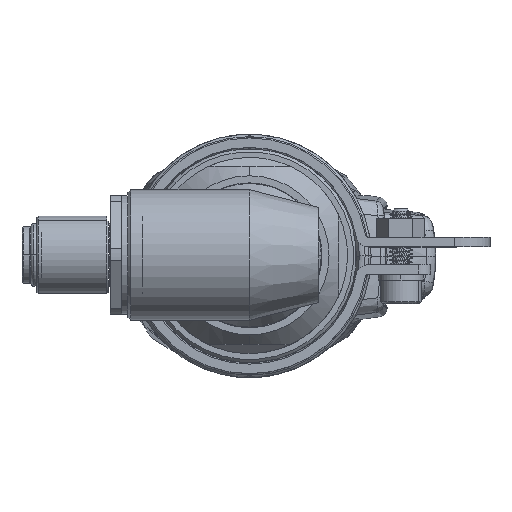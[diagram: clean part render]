
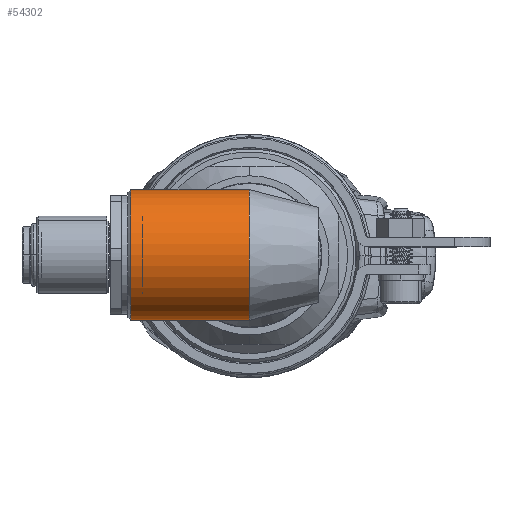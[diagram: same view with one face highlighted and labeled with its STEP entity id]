
A CAD part, top view. The second image highlights one B-rep face of the part: STEP entity #54302.
In plain terms, the highlighted cylindrical face has radius 11 mm (diameter 22 mm), a partial arc.
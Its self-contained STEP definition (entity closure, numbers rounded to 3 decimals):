
#3683 = ORIENTED_EDGE ( 'NONE', *, *, #71735, .T. ) ;
#6338 = VERTEX_POINT ( 'NONE', #99117 ) ;
#11265 = CARTESIAN_POINT ( 'NONE',  ( 0., 0., 87.8 ) ) ;
#12214 = ORIENTED_EDGE ( 'NONE', *, *, #113864, .F. ) ;
#15468 = CARTESIAN_POINT ( 'NONE',  ( -20., 11., 87.8 ) ) ;
#17622 = CARTESIAN_POINT ( 'NONE',  ( -20., 11., 87.8 ) ) ;
#31246 = DIRECTION ( 'NONE',  ( 0., -1., 0. ) ) ;
#31442 = DIRECTION ( 'NONE',  ( 0., 1., 0. ) ) ;
#32548 = VERTEX_POINT ( 'NONE', #17622 ) ;
#38162 = CARTESIAN_POINT ( 'NONE',  ( 0., 11., 87.8 ) ) ;
#43977 = AXIS2_PLACEMENT_3D ( 'NONE', #11265, #68069, #31442 ) ;
#45340 = EDGE_CURVE ( 'NONE', #32548, #85692, #78005, .T. ) ;
#47265 = ORIENTED_EDGE ( 'NONE', *, *, #45340, .F. ) ;
#48358 = CARTESIAN_POINT ( 'NONE',  ( -20., 0., 87.8 ) ) ;
#50537 = DIRECTION ( 'NONE',  ( -1., 0., 0. ) ) ;
#51757 = CYLINDRICAL_SURFACE ( 'NONE', #95308, 11. ) ;
#51797 = CIRCLE ( 'NONE', #43977, 11. ) ;
#52438 = VERTEX_POINT ( 'NONE', #70214 ) ;
#54028 = LINE ( 'NONE', #112160, #104902 ) ;
#54302 = ADVANCED_FACE ( 'NONE', ( #97650 ), #51757, .T. ) ;
#65319 = CIRCLE ( 'NONE', #106424, 11. ) ;
#68069 = DIRECTION ( 'NONE',  ( 1., 0., 0. ) ) ;
#70214 = CARTESIAN_POINT ( 'NONE',  ( -20., -11., 87.8 ) ) ;
#71735 = EDGE_CURVE ( 'NONE', #52438, #6338, #54028, .T. ) ;
#77461 = CARTESIAN_POINT ( 'NONE',  ( -20.5, 0., 87.8 ) ) ;
#78005 = LINE ( 'NONE', #15468, #107059 ) ;
#82064 = DIRECTION ( 'NONE',  ( 1., 0., 0. ) ) ;
#85692 = VERTEX_POINT ( 'NONE', #38162 ) ;
#86156 = EDGE_CURVE ( 'NONE', #85692, #6338, #51797, .T. ) ;
#87860 = DIRECTION ( 'NONE',  ( 0., 1., 0. ) ) ;
#91941 = DIRECTION ( 'NONE',  ( 1., 0., 0. ) ) ;
#95308 = AXIS2_PLACEMENT_3D ( 'NONE', #77461, #50537, #87860 ) ;
#96661 = DIRECTION ( 'NONE',  ( -1., 0., 0. ) ) ;
#97650 = FACE_OUTER_BOUND ( 'NONE', #105015, .T. ) ;
#99117 = CARTESIAN_POINT ( 'NONE',  ( 0., -11., 87.8 ) ) ;
#104902 = VECTOR ( 'NONE', #91941, 1000. ) ;
#105015 = EDGE_LOOP ( 'NONE', ( #3683, #107806, #47265, #12214 ) ) ;
#106424 = AXIS2_PLACEMENT_3D ( 'NONE', #48358, #96661, #31246 ) ;
#107059 = VECTOR ( 'NONE', #82064, 1000. ) ;
#107806 = ORIENTED_EDGE ( 'NONE', *, *, #86156, .F. ) ;
#112160 = CARTESIAN_POINT ( 'NONE',  ( -20., -11., 87.8 ) ) ;
#113864 = EDGE_CURVE ( 'NONE', #52438, #32548, #65319, .T. ) ;
